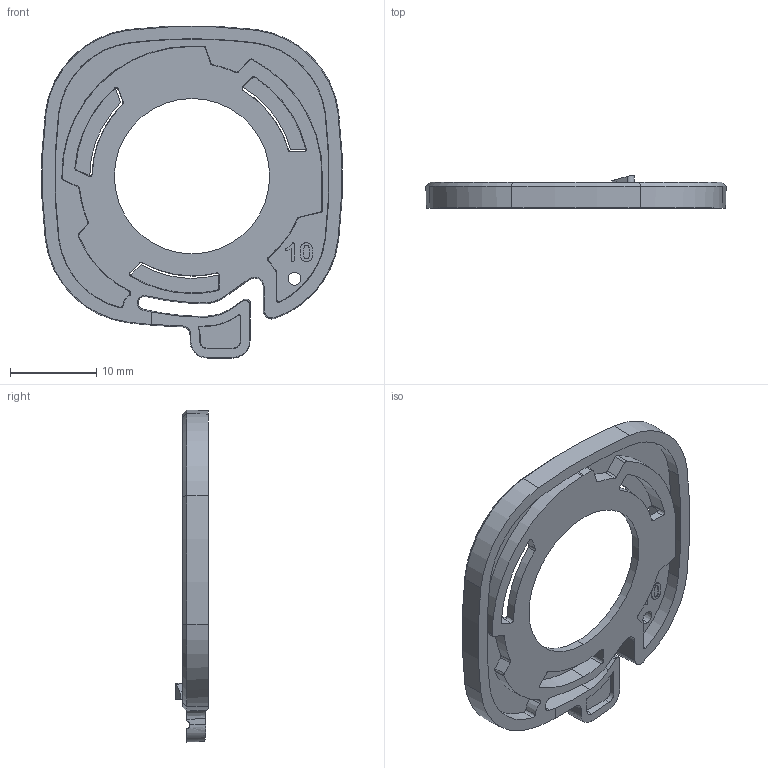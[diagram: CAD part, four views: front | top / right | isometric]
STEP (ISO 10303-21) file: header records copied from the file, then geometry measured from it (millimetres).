
FILE_DESCRIPTION (( 'STEP AP214' ), '1' );
FILE_NAME ('SENSW-REV10 - mounting bracket for molding - no stubs.STEP', '2024-07-04T13:03:25', ( '' ), ( '' ), 'SwSTEP 2.0', 'SolidWorks 2024', '' );
FILE_SCHEMA (( 'AUTOMOTIVE_DESIGN' ));
Length unit declared in the file: millimetre
Products named in the file (1): SENSW-REV10 - mounting bracket for molding - no stubs
Bounding box: 34.79 x 3.8 x 38.46 mm (x, y, z)
Volume: 1517.9 mm3; surface area: 2589.1 mm2
Topology: 1 solids, 1 shells, 181 faces, 516 edges, 340 vertices
Faces by surface type: cone 63, plane 55, bspline 55, cylinder 8
Entity records: 7738 total; most frequent: CARTESIAN_POINT 3535, ORIENTED_EDGE 1032, DIRECTION 660, EDGE_CURVE 516, VERTEX_POINT 340, AXIS2_PLACEMENT_3D 243, B_SPLINE_CURVE_WITH_KNOTS 202, EDGE_LOOP 194
